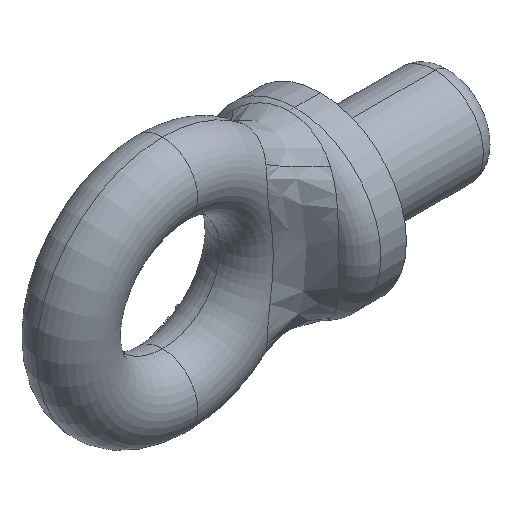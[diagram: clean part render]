
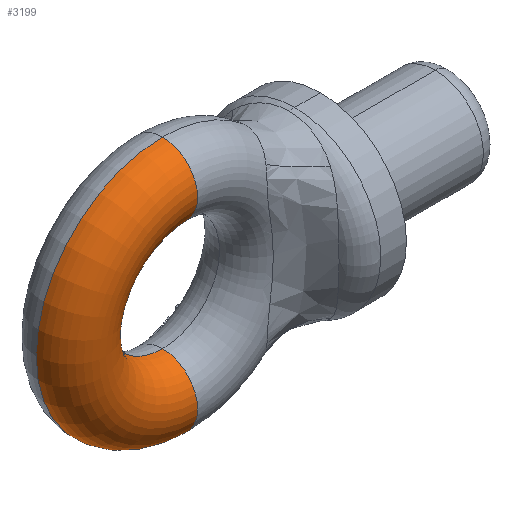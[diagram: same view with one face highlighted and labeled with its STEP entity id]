
A CAD part, isometric view. The second image highlights one B-rep face of the part: STEP entity #3199.
In plain terms, the highlighted toroidal (fillet/blend) face has major radius 11.45 mm and minor radius 4.35 mm.
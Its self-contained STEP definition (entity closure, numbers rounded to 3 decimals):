
#3014 = EDGE_CURVE ( 'NONE', #3644, #3643, #8343, .T. ) ;
#3133 = EDGE_CURVE ( 'NONE', #3623, #3650, #8531, .T. ) ;
#3172 = ORIENTED_EDGE ( 'NONE', *, *, #3133, .T. ) ;
#3196 = EDGE_LOOP ( 'NONE', ( #3203, #3204, #3205, #3172 ) ) ;
#3199 = ADVANCED_FACE ( 'NONE', ( #8688 ), #8687, .T. ) ;
#3203 = ORIENTED_EDGE ( 'NONE', *, *, #3647, .F. ) ;
#3204 = ORIENTED_EDGE ( 'NONE', *, *, #3014, .F. ) ;
#3205 = ORIENTED_EDGE ( 'NONE', *, *, #3626, .T. ) ;
#3623 = VERTEX_POINT ( 'NONE', #14067 ) ;
#3626 = EDGE_CURVE ( 'NONE', #3644, #3623, #14066, .T. ) ;
#3643 = VERTEX_POINT ( 'NONE', #14109 ) ;
#3644 = VERTEX_POINT ( 'NONE', #14108 ) ;
#3647 = EDGE_CURVE ( 'NONE', #3643, #3650, #14107, .T. ) ;
#3650 = VERTEX_POINT ( 'NONE', #14102 ) ;
#8339 = DIRECTION ( 'NONE',  ( 0., 0., -1. ) ) ;
#8340 = DIRECTION ( 'NONE',  ( 1., 0., 0. ) ) ;
#8341 = CARTESIAN_POINT ( 'NONE',  ( 0., 0., -11.45 ) ) ;
#8342 = AXIS2_PLACEMENT_3D ( 'NONE', #8341, #8340, #8339 ) ;
#8343 = CIRCLE ( 'NONE', #8342, 4.35 ) ;
#8527 = DIRECTION ( 'NONE',  ( 0., 0., 1. ) ) ;
#8528 = DIRECTION ( 'NONE',  ( -1., 0., 0. ) ) ;
#8529 = CARTESIAN_POINT ( 'NONE',  ( 0., 0., 11.45 ) ) ;
#8530 = AXIS2_PLACEMENT_3D ( 'NONE', #8529, #8528, #8527 ) ;
#8531 = CIRCLE ( 'NONE', #8530, 4.35 ) ;
#8683 = DIRECTION ( 'NONE',  ( 0., 0., 1. ) ) ;
#8684 = DIRECTION ( 'NONE',  ( 0., 1., 0. ) ) ;
#8685 = CARTESIAN_POINT ( 'NONE',  ( 0., 0., 0. ) ) ;
#8686 = AXIS2_PLACEMENT_3D ( 'NONE', #8685, #8684, #8683 ) ;
#8687 = TOROIDAL_SURFACE ( 'NONE', #8686, 11.45, 4.35 ) ;
#8688 = FACE_OUTER_BOUND ( 'NONE', #3196, .T. ) ;
#14062 = DIRECTION ( 'NONE',  ( 0., 0., 1. ) ) ;
#14063 = DIRECTION ( 'NONE',  ( 0., 1., 0. ) ) ;
#14064 = CARTESIAN_POINT ( 'NONE',  ( 0., 0., 0. ) ) ;
#14065 = AXIS2_PLACEMENT_3D ( 'NONE', #14064, #14063, #14062 ) ;
#14066 = CIRCLE ( 'NONE', #14065, 7.1 ) ;
#14067 = CARTESIAN_POINT ( 'NONE',  ( 0., 0., 7.1 ) ) ;
#14102 = CARTESIAN_POINT ( 'NONE',  ( 0., 0., 15.8 ) ) ;
#14103 = DIRECTION ( 'NONE',  ( 0., 0., 1. ) ) ;
#14104 = DIRECTION ( 'NONE',  ( 0., 1., 0. ) ) ;
#14105 = CARTESIAN_POINT ( 'NONE',  ( 0., 0., 0. ) ) ;
#14106 = AXIS2_PLACEMENT_3D ( 'NONE', #14105, #14104, #14103 ) ;
#14107 = CIRCLE ( 'NONE', #14106, 15.8 ) ;
#14108 = CARTESIAN_POINT ( 'NONE',  ( 0., 0., -7.1 ) ) ;
#14109 = CARTESIAN_POINT ( 'NONE',  ( 0., 0., -15.8 ) ) ;
